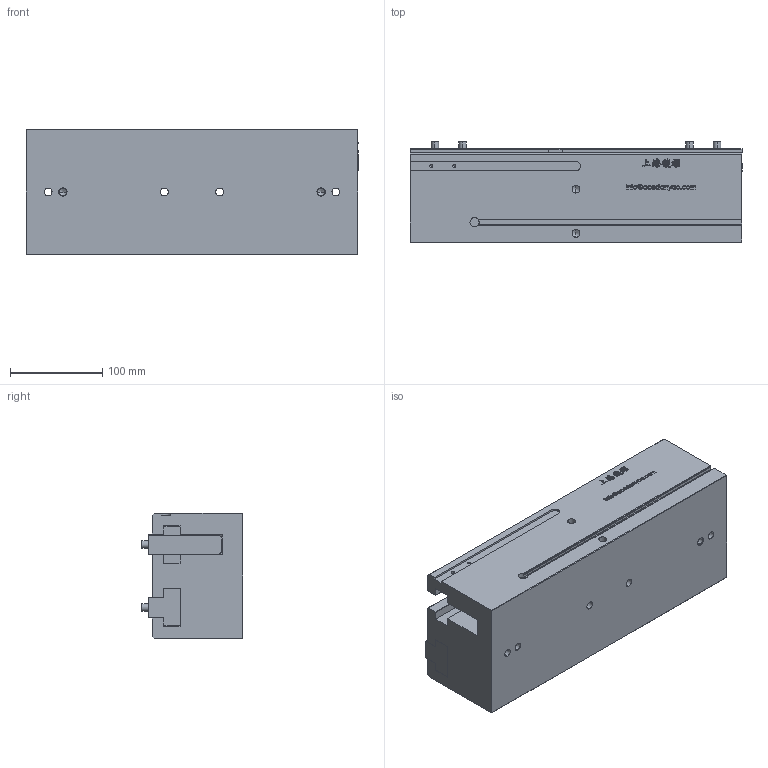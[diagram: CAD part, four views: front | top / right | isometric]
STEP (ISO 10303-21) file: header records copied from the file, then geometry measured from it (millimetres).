
FILE_DESCRIPTION (( 'STEP AP203' ), '1' );
FILE_NAME ('GPL60-150-原始檔-組合-W106.04.18.STEP', '2017-04-18T01:39:43', ( 'DanyaoCAD' ), ( '' ), 'SwSTEP 2.0', 'SolidWorks 2016', '' );
FILE_SCHEMA (( 'CONFIG_CONTROL_DESIGN' ));
Length unit declared in the file: millimetre
Products named in the file (3): Griffa; Corpo; GPL60-150-原始檔-組合-W106.04.18
Assembly tree (3 placements, depth 2):
  GPL60-150-原始檔-組合-W106.04.18
    Griffa  x2
    Corpo
Bounding box: 360 x 110 x 136 mm (x, y, z)
Volume: 4170256.8 mm3; surface area: 381294.5 mm2
Topology: 3 solids, 3 shells, 995 faces, 2775 edges, 1830 vertices
Faces by surface type: bspline 640, plane 263, cylinder 56, cone 36
Entity records: 46726 total; most frequent: CARTESIAN_POINT 26466, ORIENTED_EDGE 5262, EDGE_CURVE 2631, DIRECTION 2081, VERTEX_POINT 1751, B_SPLINE_CURVE_WITH_KNOTS 1280, LINE 1237, VECTOR 1237
